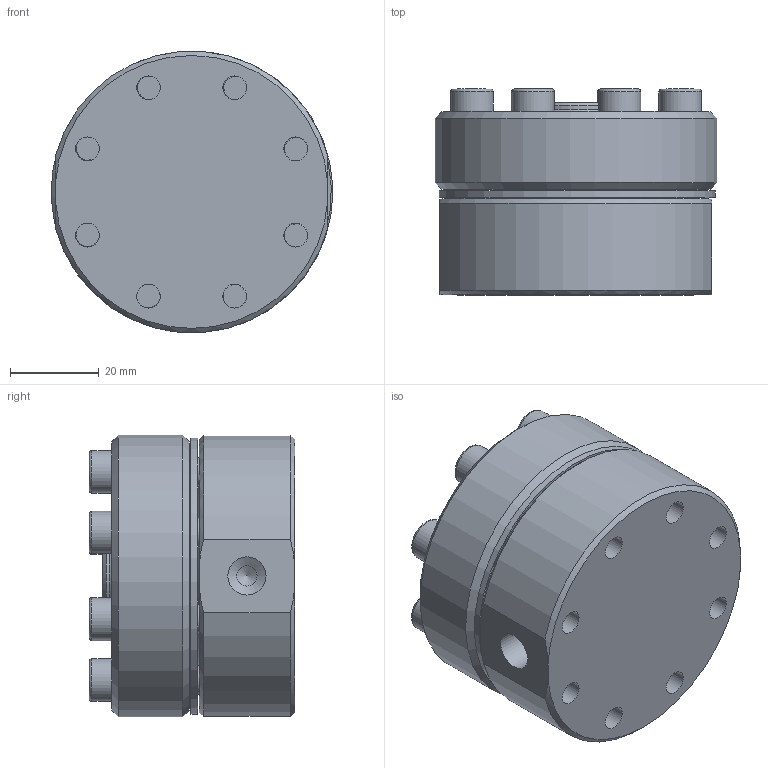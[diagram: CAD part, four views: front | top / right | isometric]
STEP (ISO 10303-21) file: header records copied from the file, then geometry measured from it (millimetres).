
FILE_DESCRIPTION(/* description */ (''),/* implementation_level */ '2;1');
FILE_NAME(/* name */ 'Z:\Models\Instrument Series\EB1HP1\HP1_ZF1_ULF1_R8_ExternalModel.stp',/* time_stamp */ '2015-12-14T09:19:05-05:00',/* author */ ('Owner'),/* organization */ (''),/* preprocessor_version */ 'ST-DEVELOPER v15.6',/* originating_system */ 'Autodesk Inventor 2015',/* authorisation */ '');
FILE_SCHEMA (('AUTOMOTIVE_DESIGN { 1 0 10303 214 3 1 1 }'));
Length unit declared in the file: inch
Products named in the file (7): HP1 Diaphragm; O-29; EB1HP1 External; O-27; EB1HP1 R7; ANSI B18.3 - 1_4-28 UNF - 1.25(31); EB1HP Assembly
Assembly tree (13 placements, depth 2):
  EB1HP Assembly
    HP1 Diaphragm
    O-29
    EB1HP1 External
    O-27
    EB1HP1 R7
    ANSI B18.3 - 1_4-28 UNF - 1.25(31)  x8
Bounding box: 63.45 x 46.36 x 63.45 mm (x, y, z)
Volume: 126449.5 mm3; surface area: 42264.7 mm2
Topology: 13 solids, 13 shells, 203 faces, 480 edges, 313 vertices
Faces by surface type: plane 94, cylinder 57, cone 29, torus 23
Full cylindrical faces by diameter (mm): 0.762 x1, 4.572 x2, 5.359 x8, 6.35 x8, 6.604 x16, 8.611 x3, 9.525 x8, 17.78 x1, 31.318 x1, 36.373 x2, 41.377 x1, 62.23 x1, 63.5 x1
Entity records: 2809 total; most frequent: DIRECTION 492, CARTESIAN_POINT 470, ORIENTED_EDGE 332, AXIS2_PLACEMENT_3D 228, EDGE_LOOP 212, EDGE_CURVE 166, VERTEX_POINT 140, FACE_BOUND 114
